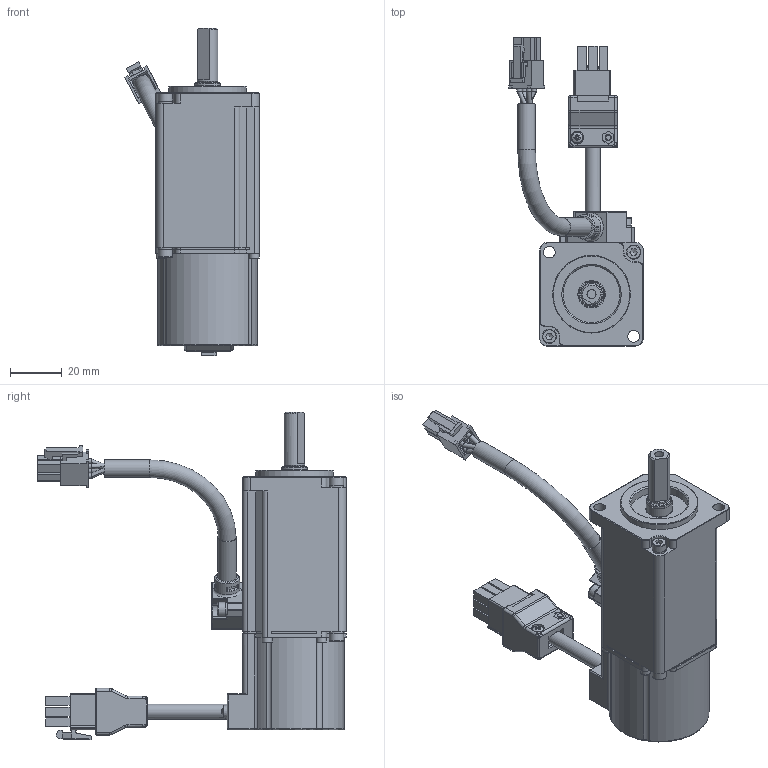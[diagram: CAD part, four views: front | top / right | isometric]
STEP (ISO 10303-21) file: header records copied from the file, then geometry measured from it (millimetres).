
FILE_DESCRIPTION(/* description */ (''),/* implementation_level */ '2;1');
FILE_NAME(/* name */ 'C:\Users\11755\Desktop\SME(磁編)\SME(磁編)_馬達外型圖(客戶版)\3D-STP\SME-L010(磁編).stp',/* time_stamp */ '2021-07-30T11:06:39+08:00',/* author */ ('11755'),/* organization */ (''),/* preprocessor_version */ 'ST-DEVELOPER v17',/* originating_system */ 'Autodesk Inventor 2019',/* authorisation */ '');
FILE_SCHEMA (('AUTOMOTIVE_DESIGN { 1 0 10303 214 3 1 1 }'));
Products named in the file (1): SME-L010(磁編)_20201111_Shrinkwrap_1
Bounding box: 51.99 x 119.11 x 126.7 mm (x, y, z)
Volume: 153884.4 mm3; surface area: 33624 mm2
Topology: 1 solids, 4 shells, 1285 faces, 3508 edges, 2278 vertices
Faces by surface type: plane 780, cylinder 252, cone 75, bspline 73, torus 67, sphere 38
Full cylindrical faces by diameter (mm): 1.2 x4, 1.5 x4, 2 x4, 2.459 x1, 2.6 x9, 3.8 x4, 4.5 x2, 5 x2, 5.32 x6, 5.5 x6, 5.8 x1, 6.1 x1, 6.8 x1, 7.2 x1, 7.8 x1, 8 x1, 9.6 x1, 9.8 x2, 10 x1, 10.6 x1, 22 x1, 30 x1
Entity records: 48137 total; most frequent: CARTESIAN_POINT 14633, ORIENTED_EDGE 6942, DIRECTION 6477, EDGE_CURVE 3471, VERTEX_POINT 2275, AXIS2_PLACEMENT_3D 2182, LINE 2113, VECTOR 2113
